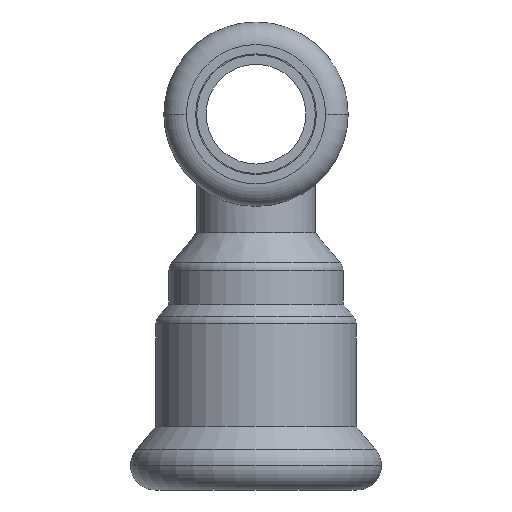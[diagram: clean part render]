
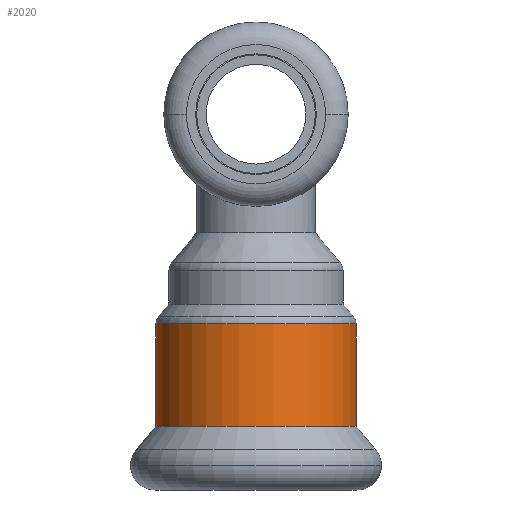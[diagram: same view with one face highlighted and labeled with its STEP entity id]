
A CAD part, front view. The second image highlights one B-rep face of the part: STEP entity #2020.
In plain terms, the highlighted cylindrical face has radius 12.65 mm (diameter 25.3 mm), a partial arc.
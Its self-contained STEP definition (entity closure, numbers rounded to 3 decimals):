
#1380=CARTESIAN_POINT('',(-306.641,56.893,0.));
#1390=VERTEX_POINT('',#1380);
#1570=CARTESIAN_POINT('',(-331.941,56.893,
0.));
#1580=VERTEX_POINT('',#1570);
#1610=CARTESIAN_POINT('',(-319.291,56.893,0.));
#1620=DIRECTION('',(0.,1.,0.));
#1630=DIRECTION('',(-1.,0.,0.));
#1640=AXIS2_PLACEMENT_3D('',#1610,#1620,#1630);
#1650=CIRCLE('',#1640,12.65);
#1660=EDGE_CURVE('',#1390,#1580,#1650,.T.);
#1710=CARTESIAN_POINT('',(-319.291,50.141,0.));
#1720=DIRECTION('',(0.,-1.,0.));
#1730=DIRECTION('',(-1.,0.,0.));
#1740=AXIS2_PLACEMENT_3D('',#1710,#1720,#1730);
#1750=CYLINDRICAL_SURFACE('',#1740,12.65);
#1760=CARTESIAN_POINT('',(-306.641,50.141,
0.));
#1770=DIRECTION('',(0.,-1.,0.));
#1780=VECTOR('',#1770,1.);
#1790=LINE('',#1760,#1780);
#1800=CARTESIAN_POINT('',(-306.641,43.947,0.));
#1810=VERTEX_POINT('',#1800);
#1820=EDGE_CURVE('',#1390,#1810,#1790,.T.);
#1830=ORIENTED_EDGE('',*,*,#1820,.T.);
#1840=ORIENTED_EDGE('',*,*,#1660,.F.);
#1850=CARTESIAN_POINT('',(-331.941,50.141,0.));
#1860=DIRECTION('',(0.,-1.,0.));
#1870=VECTOR('',#1860,1.);
#1880=LINE('',#1850,#1870);
#1890=CARTESIAN_POINT('',(-331.941,43.947,0.));
#1900=VERTEX_POINT('',#1890);
#1910=EDGE_CURVE('',#1580,#1900,#1880,.T.);
#1920=ORIENTED_EDGE('',*,*,#1910,.F.);
#1930=CARTESIAN_POINT('',(-319.291,43.947,0.));
#1940=DIRECTION('',(0.,-1.,0.));
#1950=DIRECTION('',(-1.,0.,0.));
#1960=AXIS2_PLACEMENT_3D('',#1930,#1940,#1950);
#1970=CIRCLE('',#1960,12.65);
#1980=EDGE_CURVE('',#1900,#1810,#1970,.T.);
#1990=ORIENTED_EDGE('',*,*,#1980,.F.);
#2000=EDGE_LOOP('',(#1990,#1920,#1840,#1830));
#2010=FACE_OUTER_BOUND('',#2000,.T.);
#2020=ADVANCED_FACE('',(#2010),#1750,.T.);
